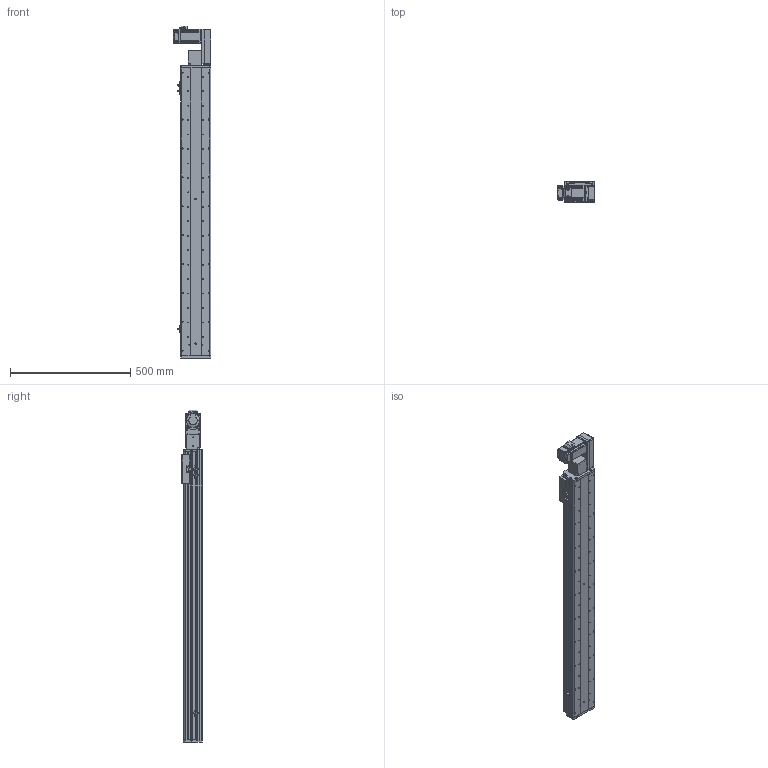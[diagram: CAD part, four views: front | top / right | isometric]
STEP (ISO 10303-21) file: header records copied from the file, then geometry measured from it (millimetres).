
FILE_DESCRIPTION (( 'STEP AP214' ), '1' );
FILE_NAME ('KSD125B-S1000-MLB-CM.STEP', '2017-10-21T01:53:48', ( '微软用户' ), ( '微软中国' ), 'SwSTEP 2.0', 'SolidWorks 2014', '' );
FILE_SCHEMA (( 'AUTOMOTIVE_DESIGN' ));
Length unit declared in the file: millimetre
Products named in the file (17): KSD125模组同步带-防撞垫1; 前端板-125宽模组同步带; 125模组同步带-尾端板1; KSD125模组同步带-滑动座1; KSD125B-S1000-MLB-CM; 悵誘欶奻狟殏; HTPA30S3M150_A_H6_a佪裝蚚; HTPA30S3M150_A_H6_a萇儂蚚; 100宽马达安装板连板上下折丝杆同步带; 100宽马达安装板同步带左; KSD125模组1000行程同步带-防尘盖; 125模组1000行程同步带-底板; MHMD042G1CA_2_03; KSD125模组同步带-防撞垫2; 覜茼え68遵圉猾敕; U倰嫖萇假蚾璃; U倰嫖萇EEㄜSX672
Assembly tree (20 placements, depth 2):
  KSD125B-S1000-MLB-CM
    KSD125模组同步带-滑动座1
    125模组同步带-尾端板1
    前端板-125宽模组同步带
    KSD125模组同步带-防撞垫1
    U倰嫖萇EEㄜSX672  x3
    U倰嫖萇假蚾璃  x3
    覜茼え68遵圉猾敕
    KSD125模组同步带-防撞垫2
    MHMD042G1CA_2_03
    125模组1000行程同步带-底板
    KSD125模组1000行程同步带-防尘盖
    100宽马达安装板同步带左
    100宽马达安装板连板上下折丝杆同步带
    HTPA30S3M150_A_H6_a萇儂蚚
    HTPA30S3M150_A_H6_a佪裝蚚
    悵誘欶奻狟殏
Bounding box: 155 x 86 x 1378 mm (x, y, z)
Volume: 3926381.1 mm3; surface area: 1320130.5 mm2
Topology: 19 solids, 22 shells, 2311 faces, 6697 edges, 4426 vertices
Faces by surface type: cylinder 1456, plane 728, cone 105, bspline 22
Entity records: 82343 total; most frequent: CARTESIAN_POINT 16239, DIRECTION 12798, ORIENTED_EDGE 11914, EDGE_CURVE 6035, AXIS2_PLACEMENT_3D 4953, VERTEX_POINT 4018, LINE 2892, VECTOR 2892
